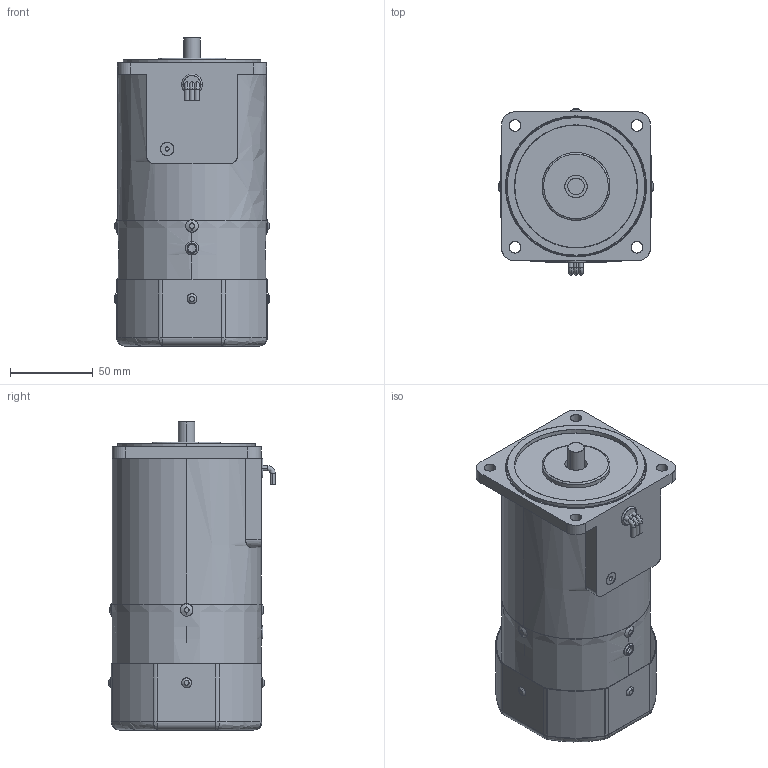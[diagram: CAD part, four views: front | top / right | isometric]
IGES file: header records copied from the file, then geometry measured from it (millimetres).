
Start section: SolidWorks IGES file using analytic representation for surfaces
Bounding box: 94 x 100.5 x 186 mm (x, y, z)
Surface area: 170234 mm2 (no closed solid volume)
Topology: 0 solids, 0 shells, 278 faces, 5986 edges, 5970 vertices
Faces by surface type: revolution 156, bspline 122
